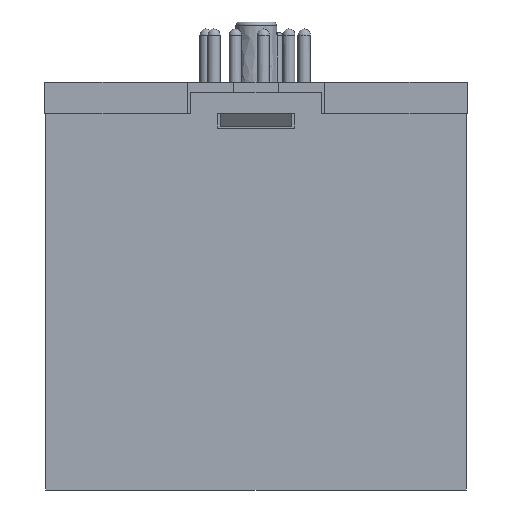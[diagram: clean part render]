
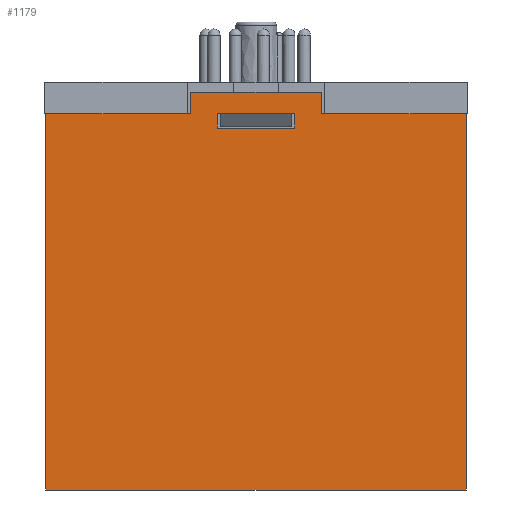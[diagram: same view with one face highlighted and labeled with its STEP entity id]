
A CAD part, front view. The second image highlights one B-rep face of the part: STEP entity #1179.
In plain terms, the highlighted planar face has unit normal (0, -1, 0).
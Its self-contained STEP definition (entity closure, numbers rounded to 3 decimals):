
#748=PLANE('',#14996);
#1179=ADVANCED_FACE('',(#1688,#1893),#748,.T.);
#1688=FACE_OUTER_BOUND('',#2344,.T.);
#1893=FACE_BOUND('',#2345,.T.);
#2344=EDGE_LOOP('',(#4679,#4680,#4681,#4682,#4683,#4684,#4685,#4686));
#2345=EDGE_LOOP('',(#4687,#4688,#4689,#4690));
#4679=ORIENTED_EDGE('',*,*,#7944,.T.);
#4680=ORIENTED_EDGE('',*,*,#7945,.T.);
#4681=ORIENTED_EDGE('',*,*,#7946,.T.);
#4682=ORIENTED_EDGE('',*,*,#7947,.T.);
#4683=ORIENTED_EDGE('',*,*,#7948,.T.);
#4684=ORIENTED_EDGE('',*,*,#7949,.T.);
#4685=ORIENTED_EDGE('',*,*,#7950,.T.);
#4686=ORIENTED_EDGE('',*,*,#7951,.T.);
#4687=ORIENTED_EDGE('',*,*,#7952,.T.);
#4688=ORIENTED_EDGE('',*,*,#7953,.T.);
#4689=ORIENTED_EDGE('',*,*,#7954,.T.);
#4690=ORIENTED_EDGE('',*,*,#7955,.T.);
#7944=EDGE_CURVE('',#13981,#13974,#10959,.T.);
#7945=EDGE_CURVE('',#13974,#13975,#10960,.T.);
#7946=EDGE_CURVE('',#13975,#13976,#10961,.T.);
#7947=EDGE_CURVE('',#13976,#13977,#10962,.T.);
#7948=EDGE_CURVE('',#13977,#13978,#10963,.T.);
#7949=EDGE_CURVE('',#13978,#13979,#10964,.T.);
#7950=EDGE_CURVE('',#13979,#13980,#10965,.T.);
#7951=EDGE_CURVE('',#13980,#13981,#10966,.T.);
#7952=EDGE_CURVE('',#13985,#13982,#10967,.T.);
#7953=EDGE_CURVE('',#13982,#13983,#10968,.T.);
#7954=EDGE_CURVE('',#13983,#13984,#10969,.T.);
#7955=EDGE_CURVE('',#13984,#13985,#10970,.T.);
#10959=B_SPLINE_CURVE_WITH_KNOTS('',1,(#35721,#35722),.UNSPECIFIED.,.F.,
.F.,(2,2),(0.,1.),.UNSPECIFIED.);
#10960=B_SPLINE_CURVE_WITH_KNOTS('',1,(#35723,#35724),.UNSPECIFIED.,.F.,
.F.,(2,2),(0.,1.),.UNSPECIFIED.);
#10961=B_SPLINE_CURVE_WITH_KNOTS('',1,(#35725,#35726),.UNSPECIFIED.,.F.,
.F.,(2,2),(0.,1.),.UNSPECIFIED.);
#10962=B_SPLINE_CURVE_WITH_KNOTS('',1,(#35727,#35728),.UNSPECIFIED.,.F.,
.F.,(2,2),(0.,0.345),.UNSPECIFIED.);
#10963=B_SPLINE_CURVE_WITH_KNOTS('',1,(#35729,#35730),.UNSPECIFIED.,.F.,
.F.,(2,2),(0.,1.),.UNSPECIFIED.);
#10964=B_SPLINE_CURVE_WITH_KNOTS('',1,(#35731,#35732),.UNSPECIFIED.,.F.,
.F.,(2,2),(0.,1.),.UNSPECIFIED.);
#10965=B_SPLINE_CURVE_WITH_KNOTS('',1,(#35733,#35734),.UNSPECIFIED.,.F.,
.F.,(2,2),(0.,1.),.UNSPECIFIED.);
#10966=B_SPLINE_CURVE_WITH_KNOTS('',1,(#35735,#35736),.UNSPECIFIED.,.F.,
.F.,(2,2),(0.655,1.),.UNSPECIFIED.);
#10967=B_SPLINE_CURVE_WITH_KNOTS('',1,(#35737,#35738),.UNSPECIFIED.,.F.,
.F.,(2,2),(0.,1.),.UNSPECIFIED.);
#10968=B_SPLINE_CURVE_WITH_KNOTS('',1,(#35739,#35740),.UNSPECIFIED.,.F.,
.F.,(2,2),(0.,1.),.UNSPECIFIED.);
#10969=B_SPLINE_CURVE_WITH_KNOTS('',1,(#35741,#35742),.UNSPECIFIED.,.F.,
.F.,(2,2),(0.,1.),.UNSPECIFIED.);
#10970=B_SPLINE_CURVE_WITH_KNOTS('',1,(#35743,#35744),.UNSPECIFIED.,.F.,
.F.,(2,2),(0.,1.),.UNSPECIFIED.);
#13974=VERTEX_POINT('',#34869);
#13975=VERTEX_POINT('',#34870);
#13976=VERTEX_POINT('',#34871);
#13977=VERTEX_POINT('',#34872);
#13978=VERTEX_POINT('',#34873);
#13979=VERTEX_POINT('',#34874);
#13980=VERTEX_POINT('',#34875);
#13981=VERTEX_POINT('',#34876);
#13982=VERTEX_POINT('',#34877);
#13983=VERTEX_POINT('',#34878);
#13984=VERTEX_POINT('',#34879);
#13985=VERTEX_POINT('',#34880);
#14996=AXIS2_PLACEMENT_3D('',#38371,#15416,#15415);
#15415=DIRECTION('',(0.,0.,-1.));
#15416=DIRECTION('',(0.,-1.,0.));
#34869=CARTESIAN_POINT('',(-39.4,-17.8,-76.5));
#34870=CARTESIAN_POINT('',(39.4,-17.8,-76.5));
#34871=CARTESIAN_POINT('',(39.4,-17.8,-5.9));
#34872=CARTESIAN_POINT('',(12.2,-17.8,-5.9));
#34873=CARTESIAN_POINT('',(12.2,-17.8,-1.9));
#34874=CARTESIAN_POINT('',(-12.2,-17.8,-1.9));
#34875=CARTESIAN_POINT('',(-12.2,-17.8,-5.9));
#34876=CARTESIAN_POINT('',(-39.4,-17.8,-5.9));
#34877=CARTESIAN_POINT('',(7.3,-17.8,-8.6));
#34878=CARTESIAN_POINT('',(-7.3,-17.8,-8.6));
#34879=CARTESIAN_POINT('',(-7.3,-17.8,-5.9));
#34880=CARTESIAN_POINT('',(7.3,-17.8,-5.9));
#35721=CARTESIAN_POINT('',(-39.4,-17.8,-5.9));
#35722=CARTESIAN_POINT('',(-39.4,-17.8,-76.5));
#35723=CARTESIAN_POINT('',(-39.4,-17.8,-76.5));
#35724=CARTESIAN_POINT('',(39.4,-17.8,-76.5));
#35725=CARTESIAN_POINT('',(39.4,-17.8,-76.5));
#35726=CARTESIAN_POINT('',(39.4,-17.8,-5.9));
#35727=CARTESIAN_POINT('',(39.4,-17.8,-5.9));
#35728=CARTESIAN_POINT('',(12.2,-17.8,-5.9));
#35729=CARTESIAN_POINT('',(12.2,-17.8,-5.9));
#35730=CARTESIAN_POINT('',(12.2,-17.8,-1.9));
#35731=CARTESIAN_POINT('',(12.2,-17.8,-1.9));
#35732=CARTESIAN_POINT('',(-12.2,-17.8,-1.9));
#35733=CARTESIAN_POINT('',(-12.2,-17.8,-1.9));
#35734=CARTESIAN_POINT('',(-12.2,-17.8,-5.9));
#35735=CARTESIAN_POINT('',(-12.2,-17.8,-5.9));
#35736=CARTESIAN_POINT('',(-39.4,-17.8,-5.9));
#35737=CARTESIAN_POINT('',(7.3,-17.8,-5.9));
#35738=CARTESIAN_POINT('',(7.3,-17.8,-8.6));
#35739=CARTESIAN_POINT('',(7.3,-17.8,-8.6));
#35740=CARTESIAN_POINT('',(-7.3,-17.8,-8.6));
#35741=CARTESIAN_POINT('',(-7.3,-17.8,-8.6));
#35742=CARTESIAN_POINT('',(-7.3,-17.8,-5.9));
#35743=CARTESIAN_POINT('',(-7.3,-17.8,-5.9));
#35744=CARTESIAN_POINT('',(7.3,-17.8,-5.9));
#38371=CARTESIAN_POINT('',(0.,-17.8,-76.5));
